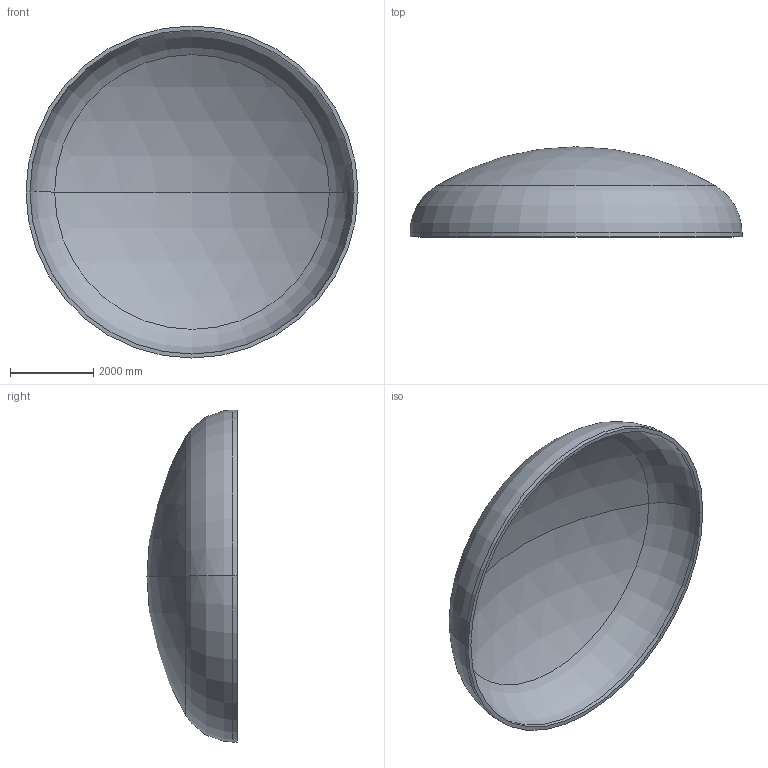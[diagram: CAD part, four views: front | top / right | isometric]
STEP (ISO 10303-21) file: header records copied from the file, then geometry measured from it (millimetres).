
FILE_DESCRIPTION (( 'STEP AP203' ), '1' );
FILE_NAME ('DIN 28013 Korbbogenform_-_Boden DIN 28013 - 8000 x 100 - I - s=96.step', '2016-07-04T11:04:54', ( '' ), ( '' ), 'SwSTEP 2.0', 'SolidWorks 2013', '' );
FILE_SCHEMA (( 'CONFIG_CONTROL_DESIGN' ));
Length unit declared in the file: millimetre
Products named in the file (1): DIN 28013 Korbbogenform_-_Boden DIN 28013 - 8000 x 100 - I - s=96
Bounding box: 8000 x 2171.23 x 8000 mm (x, y, z)
Volume: 6814309321.2 mm3; surface area: 144367814.8 mm2
Topology: 1 solids, 1 shells, 13 faces, 24 edges, 14 vertices
Faces by surface type: torus 4, cylinder 4, sphere 4, plane 1
Entity records: 407 total; most frequent: DIRECTION 72, CARTESIAN_POINT 52, ORIENTED_EDGE 48, AXIS2_PLACEMENT_3D 34, EDGE_CURVE 24, CIRCLE 20, VERTEX_POINT 14, EDGE_LOOP 14
